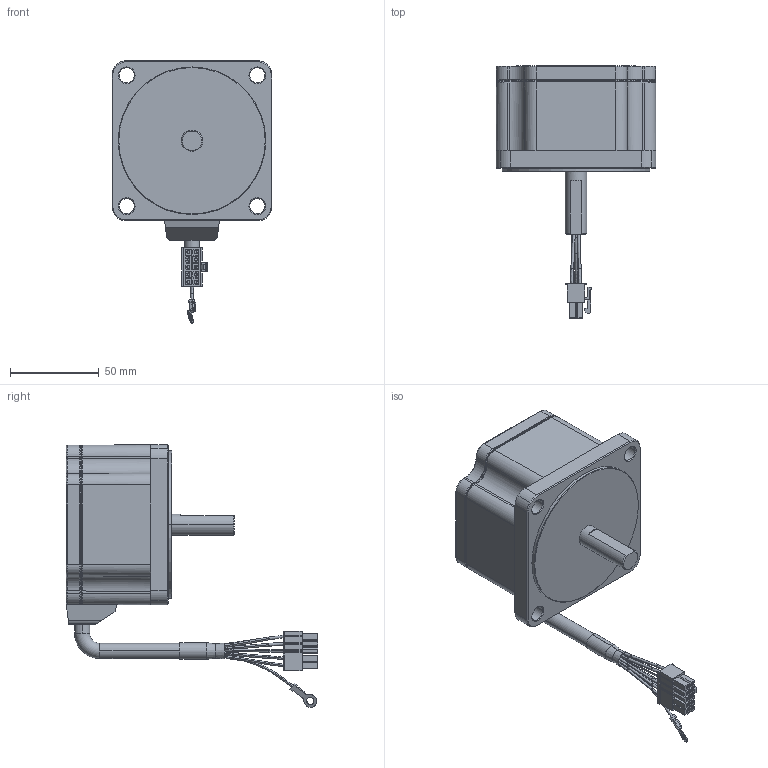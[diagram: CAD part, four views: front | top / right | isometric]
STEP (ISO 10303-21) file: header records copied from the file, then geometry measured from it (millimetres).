
FILE_DESCRIPTION (( 'STEP AP214' ), '1' );
FILE_NAME ('K9BS90N¡à.stp', '2023-07-27T01:02:48', ( '' ), ( '' ), 'SwSTEP 2.0', 'SolidWorks 2022', '' );
FILE_SCHEMA (( 'AUTOMOTIVE_DESIGN' ));
Length unit declared in the file: millimetre
Products named in the file (1): K9BS90N﹤
Bounding box: 90 x 141.6 x 147.65 mm (x, y, z)
Volume: 439243.4 mm3; surface area: 59951.3 mm2
Topology: 2 solids, 3 shells, 863 faces, 2341 edges, 1485 vertices
Faces by surface type: plane 524, bspline 134, cylinder 134, cone 43, torus 28
Entity records: 31795 total; most frequent: CARTESIAN_POINT 11052, ORIENTED_EDGE 4694, DIRECTION 3823, EDGE_CURVE 2347, VECTOR 1573, LINE 1573, VERTEX_POINT 1485, AXIS2_PLACEMENT_3D 1125
